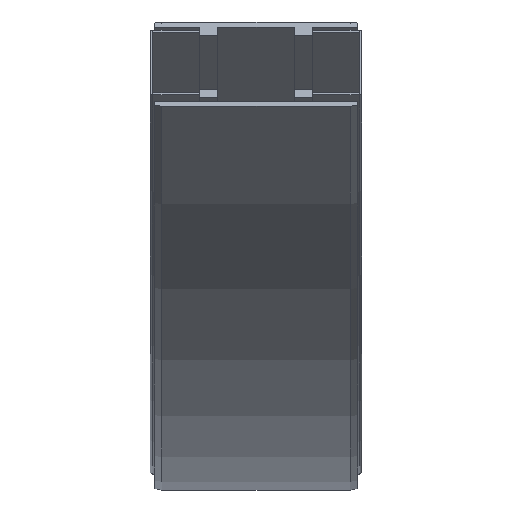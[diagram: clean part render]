
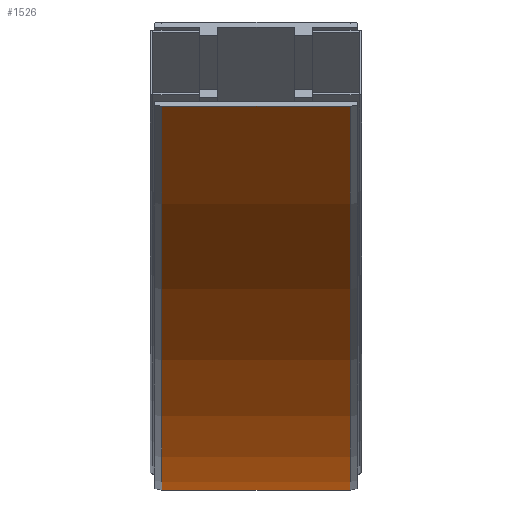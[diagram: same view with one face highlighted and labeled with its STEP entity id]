
A CAD part, left-side view. The second image highlights one B-rep face of the part: STEP entity #1526.
In plain terms, the highlighted cylindrical face has radius 902.5 mm (diameter 1805 mm), a partial arc.
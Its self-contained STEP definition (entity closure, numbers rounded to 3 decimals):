
#80=CYLINDRICAL_SURFACE('',#1643,902.5);
#149=FACE_OUTER_BOUND('',#236,.T.);
#236=EDGE_LOOP('',(#1052,#1053,#1054,#1055));
#323=CIRCLE('',#1633,902.5);
#328=CIRCLE('',#1642,902.5);
#400=LINE('',#2215,#526);
#401=LINE('',#2216,#527);
#526=VECTOR('',#1808,10.);
#527=VECTOR('',#1809,10.);
#643=VERTEX_POINT('',#2183);
#644=VERTEX_POINT('',#2185);
#652=VERTEX_POINT('',#2209);
#653=VERTEX_POINT('',#2211);
#799=EDGE_CURVE('',#643,#644,#323,.T.);
#813=EDGE_CURVE('',#652,#653,#328,.T.);
#814=EDGE_CURVE('',#643,#652,#400,.T.);
#815=EDGE_CURVE('',#644,#653,#401,.T.);
#1052=ORIENTED_EDGE('',*,*,#814,.T.);
#1053=ORIENTED_EDGE('',*,*,#813,.T.);
#1054=ORIENTED_EDGE('',*,*,#815,.F.);
#1055=ORIENTED_EDGE('',*,*,#799,.F.);
#1526=ADVANCED_FACE('',(#149),#80,.T.);
#1633=AXIS2_PLACEMENT_3D('',#2186,#1777,#1778);
#1642=AXIS2_PLACEMENT_3D('',#2213,#1804,#1805);
#1643=AXIS2_PLACEMENT_3D('',#2214,#1806,#1807);
#1777=DIRECTION('center_axis',(0.,1.,0.));
#1778=DIRECTION('ref_axis',(0.,0.,-1.));
#1804=DIRECTION('center_axis',(0.,1.,0.));
#1805=DIRECTION('ref_axis',(0.,0.,-1.));
#1806=DIRECTION('center_axis',(0.,1.,0.));
#1807=DIRECTION('ref_axis',(0.,0.,-1.));
#1808=DIRECTION('',(0.,-1.,0.));
#1809=DIRECTION('',(0.,-1.,0.));
#2183=CARTESIAN_POINT('',(0.,65.,-42.5));
#2185=CARTESIAN_POINT('',(-638.164,65.,221.836));
#2186=CARTESIAN_POINT('Origin',(0.,65.,860.));
#2209=CARTESIAN_POINT('',(0.,-65.,-42.5));
#2211=CARTESIAN_POINT('',(-638.164,-65.,221.836));
#2213=CARTESIAN_POINT('Origin',(0.,-65.,860.));
#2214=CARTESIAN_POINT('Origin',(0.,0.,860.));
#2215=CARTESIAN_POINT('',(0.,65.,-42.5));
#2216=CARTESIAN_POINT('',(-638.164,65.,221.836));
